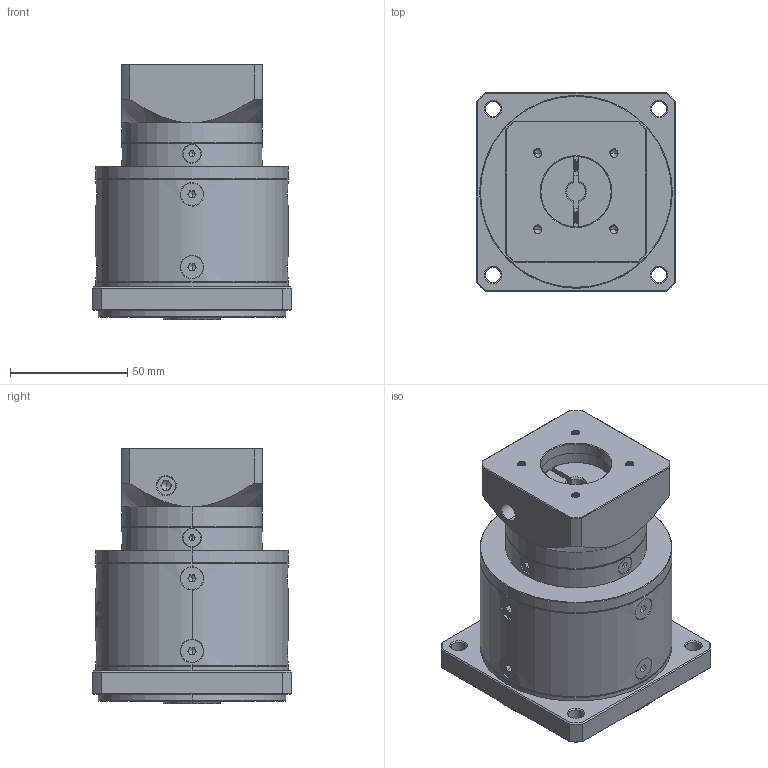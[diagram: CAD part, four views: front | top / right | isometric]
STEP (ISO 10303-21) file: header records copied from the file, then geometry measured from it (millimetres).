
FILE_DESCRIPTION (( 'STEP AP214' ), '1' );
FILE_NAME ('ZF080-K15-L2-P2-8-30-46-M4.step', '2023-08-19T06:59:45', ( '' ), ( '' ), 'SwSTEP 2.0', 'SolidWorks 2016', '' );
FILE_SCHEMA (( 'AUTOMOTIVE_DESIGN' ));
Length unit declared in the file: millimetre
Products named in the file (1): ZF080-K15-L2-P2-8-30-46-M4
Bounding box: 85 x 85 x 109 mm (x, y, z)
Volume: 459320.7 mm3; surface area: 67111.3 mm2
Topology: 18 solids, 18 shells, 2231 faces, 5891 edges, 3760 vertices
Faces by surface type: plane 1118, bspline 390, cylinder 369, cone 314, torus 40
Entity records: 114716 total; most frequent: CARTESIAN_POINT 39741, ORIENTED_EDGE 11710, DIRECTION 8786, EDGE_CURVE 5855, VERTEX_POINT 3760, LINE 3112, VECTOR 3112, AXIS2_PLACEMENT_3D 2837
